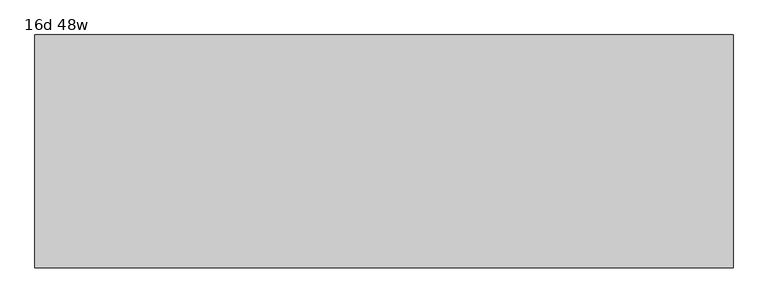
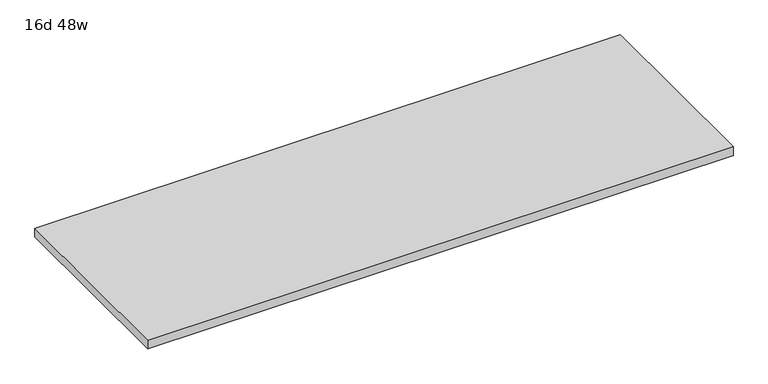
"""IFC4 building model written with IfcOpenShell, lengths in millimetres: furniture geometry, Haworth_BeHold_CommonTop : 16d 48w."""

import ifcopenshell
import ifcopenshell.guid

model = None  # the IFC model being written
_history = None  # IfcOwnerHistory: only IFC2X3 demands one
_inside = {}  # id of a spatial element -> (the spatial element, [elements in it])
_under = {}  # id of a project, library or spatial element -> (it, [spatial elements below it])
_declared = {}  # id of a project -> (the project, [libraries it declares])
_typed = {}  # id of a type object -> (the type object, [elements of that type])
_made_of = {}  # id of a material, layer set ... -> (it, [elements and type objects made of it])


def new_model(schema):
    """Start an empty IFC model of exactly this schema.

    Asked for "IFC4X3", IfcOpenShell would pick the latest addendum, in which some entities
    have other attributes; the version numbers below select the first issue.
    IFC2X3 requires an IfcOwnerHistory on every rooted entity: one is made here for all.
    """
    global model, _history
    if schema == "IFC4X3":
        model = ifcopenshell.file(schema_version=(4, 3, 0, 0))
    else:
        model = ifcopenshell.file(schema=schema)
    _inside.clear()
    _under.clear()
    _declared.clear()
    _typed.clear()
    _made_of.clear()
    _history = None
    if model.schema == "IFC2X3":
        org = make("IfcOrganization", Name="unknown")
        user = make(
            "IfcPersonAndOrganization",
            ThePerson=make("IfcPerson", FamilyName="unknown"),
            TheOrganization=org,
        )
        app = make(
            "IfcApplication",
            ApplicationDeveloper=org,
            Version="unknown",
            ApplicationFullName="unknown",
            ApplicationIdentifier="unknown",
        )
        _history = make(
            "IfcOwnerHistory",
            OwningUser=user,
            OwningApplication=app,
            ChangeAction="ADDED",
            CreationDate=0,
        )
    return model


def make(cls, **values):
    """One entity of the class cls with the attributes given. An attribute that is None is left unset."""
    return model.create_entity(
        cls, **{name: value for name, value in values.items() if value is not None}
    )


def rooted(cls, **values):
    """An entity with a GlobalId (a new one), such as an element, a storey or a relation."""
    return make(cls, GlobalId=ifcopenshell.guid.new(), OwnerHistory=_history, **values)


def si_unit(unit_type, name, prefix=None):
    """IfcSIUnit, for example si_unit("LENGTHUNIT", "METRE", prefix="MILLI")."""
    return make("IfcSIUnit", UnitType=unit_type, Prefix=prefix, Name=name)


def assignment(units):
    """IfcUnitAssignment: the units of a project."""
    return None if units is None else make("IfcUnitAssignment", Units=units)


def point(xyz):
    """IfcCartesianPoint."""
    return None if xyz is None else make("IfcCartesianPoint", Coordinates=xyz)


def direction(xyz):
    """IfcDirection."""
    return None if xyz is None else make("IfcDirection", DirectionRatios=xyz)


def frame(location, z_axis=None, x_axis=None):
    """IfcAxis2Placement3D, a coordinate frame: its origin and axes. An axis left out is left unset."""
    return make(
        "IfcAxis2Placement3D",
        Location=point(location),
        Axis=direction(z_axis),
        RefDirection=direction(x_axis),
    )


def origin():
    """The frame at (0, 0, 0) with its axes left unset."""
    return frame((0.0, 0.0, 0.0))


def place(relative_to, where):
    """IfcLocalPlacement: puts the frame where relative to a parent placement (None: the world)."""
    return make(
        "IfcLocalPlacement", PlacementRelTo=relative_to, RelativePlacement=where
    )


def context(
    kind, dimensions, precision=None, world=None, true_north=None, identifier=None
):
    """IfcGeometricRepresentationContext, for example the 3D "Model" context."""
    return make(
        "IfcGeometricRepresentationContext",
        ContextIdentifier=identifier,
        ContextType=kind,
        CoordinateSpaceDimension=dimensions,
        Precision=precision,
        WorldCoordinateSystem=world,
        TrueNorth=true_north,
    )


def project(units=None, contexts=None):
    """IfcProject with its units and contexts."""
    return rooted(
        "IfcProject",
        Name="project",
        RepresentationContexts=contexts,
        UnitsInContext=assignment(units),
    )


def spatial(cls, under=None, at=None, **own):
    """A site, building, storey or space (cls), placed at a placement, below another one or the project."""
    s = rooted(cls, ObjectPlacement=at, **own)
    if under is not None:
        _under.setdefault(under.id(), (under, []))[1].append(s)
    return s


def polyline(points):
    """IfcPolyline through the points."""
    return make("IfcPolyline", Points=[point(p) for p in points])


def outline(outer, holes=None, kind="AREA"):
    """IfcArbitraryClosedProfileDef: a profile drawn as a closed curve; with holes, ...WithVoids."""
    if holes is None:
        return make("IfcArbitraryClosedProfileDef", ProfileType=kind, OuterCurve=outer)
    return make(
        "IfcArbitraryProfileDefWithVoids",
        ProfileType=kind,
        OuterCurve=outer,
        InnerCurves=holes,
    )


def extrude(swept, where, along, depth):
    """IfcExtrudedAreaSolid: the profile swept, set in the frame where, extruded along a direction by depth."""
    return make(
        "IfcExtrudedAreaSolid",
        SweptArea=swept,
        Position=where,
        ExtrudedDirection=direction(along),
        Depth=depth,
    )


def shape(context_of_items, identifier, shape_type, items):
    """IfcShapeRepresentation: the items that make up one representation, for example the "Body"."""
    return make(
        "IfcShapeRepresentation",
        ContextOfItems=context_of_items,
        RepresentationIdentifier=identifier,
        RepresentationType=shape_type,
        Items=items,
    )


def source(mapping_origin, context_of_items, identifier, shape_type, items):
    """IfcRepresentationMap: a shape defined once, which mapped items show again and again."""
    return make(
        "IfcRepresentationMap",
        MappingOrigin=mapping_origin,
        MappedRepresentation=shape(context_of_items, identifier, shape_type, items),
    )


def transform(
    local_origin,
    x_axis=None,
    y_axis=None,
    z_axis=None,
    scale=None,
    scale2=None,
    scale3=None,
    uniform=True,
):
    """IfcCartesianTransformationOperator3D, or its non-uniform kind. x_axis, y_axis, z_axis: its Axis1, 2, 3."""
    if uniform:
        return make(
            "IfcCartesianTransformationOperator3D",
            Axis1=direction(x_axis),
            Axis2=direction(y_axis),
            LocalOrigin=point(local_origin),
            Scale=scale,
            Axis3=direction(z_axis),
        )
    return make(
        "IfcCartesianTransformationOperator3DnonUniform",
        Axis1=direction(x_axis),
        Axis2=direction(y_axis),
        LocalOrigin=point(local_origin),
        Scale=scale,
        Axis3=direction(z_axis),
        Scale2=scale2,
        Scale3=scale3,
    )


def mapped(mapping_source, mapping_target):
    """IfcMappedItem: shows the shape of a source again, moved by a transform."""
    return make(
        "IfcMappedItem", MappingSource=mapping_source, MappingTarget=mapping_target
    )


def made_of(thing, what):
    """Note that an element or type object is made of a material, layer set ...; save() writes the relation."""
    if what is not None:
        _made_of.setdefault(what.id(), (what, []))[1].append(thing)
    return thing


def element(
    cls,
    number,
    at=None,
    inside=None,
    cuts=None,
    type_object=None,
    material=None,
    context=None,
    identifier="Body",
    shape_type=None,
    held_by="IfcProductDefinitionShape",
    body=None,
    shapes=None,
    **own,
):
    """One element of the class cls, such as IfcWall. Its Tag is "e" and its number.

    at: its placement. inside: the storey or other place that contains it. cuts: it is an
    opening in that element (IfcRelVoidsElement). A single representation is given by context,
    identifier, shape_type and body (its items); several are given by shapes. held_by: the class
    of the entity that holds the representations. save() writes the other relations.
    """
    e = rooted(cls, Tag="e%d" % number, ObjectPlacement=at, **own)
    if body is not None:
        shapes = [shape(context, identifier, shape_type, body)]
    if shapes is not None:
        e.Representation = make(held_by, Representations=shapes)
    if inside is not None:
        _inside.setdefault(inside.id(), (inside, []))[1].append(e)
    if cuts is not None:
        rooted(
            "IfcRelVoidsElement", RelatingBuildingElement=cuts, RelatedOpeningElement=e
        )
    if type_object is not None:
        _typed.setdefault(type_object.id(), (type_object, []))[1].append(e)
    return made_of(e, material)


def aggregate(whole, parts):
    """IfcRelAggregates: a whole, such as a stair, and the parts it consists of."""
    return rooted("IfcRelAggregates", RelatingObject=whole, RelatedObjects=parts)


def save(model, path):
    """Write the relations noted so far, then the file.

    IfcRelAggregates (storeys below a building ...), IfcRelContainedInSpatialStructure (elements
    in a storey), IfcRelDefinesByType, IfcRelAssociatesMaterial and IfcRelDeclares: one each for
    every whole, place, type object, material and project.
    """
    for whole, parts in _under.values():
        aggregate(whole, parts)
    for where, things in _inside.values():
        rooted(
            "IfcRelContainedInSpatialStructure",
            RelatedElements=things,
            RelatingStructure=where,
        )
    for kind, things in _typed.values():
        rooted("IfcRelDefinesByType", RelatedObjects=things, RelatingType=kind)
    for what, things in _made_of.values():
        rooted("IfcRelAssociatesMaterial", RelatedObjects=things, RelatingMaterial=what)
    for by, libraries in _declared.values():
        rooted("IfcRelDeclares", RelatingContext=by, RelatedDefinitions=libraries)
    model.write(path)


def furniture_16d_48w_6f4809b6(model_context):
    return source(origin(), model_context, "Body", "SweptSolid", [
        extrude(outline(polyline([(452.7408447, 88.9), (-766.4591553, 88.9), (-766.4591553, 495.3), (452.7408447, 495.3), (452.7408447, 88.9)])), frame((0.0, 0.0, 539.75), z_axis=(0.0, 0.0, 1.0), x_axis=(1.0, 0.0, 0.0)), (0.0, 0.0, 1.0), 19.05),
    ])


if __name__ == "__main__":
    model = new_model("IFC4")
    model_context = context("Model", 3, world=origin())
    ifc_project = project(units=[si_unit("LENGTHUNIT", "METRE", prefix="MILLI")], contexts=[model_context])
    site = spatial("IfcSite", under=ifc_project)
    building = spatial("IfcBuilding", under=site)
    placement = place(None, origin())
    furniture_16d_48w_shape = furniture_16d_48w_6f4809b6(model_context)
    element("IfcFurniture", 1, ObjectType="Haworth_BeHold_CommonTop : 16d 48w", at=placement, inside=building, context=model_context, shape_type="MappedRepresentation", body=[
        mapped(furniture_16d_48w_shape, transform((0.0, 0.0, 0.0), x_axis=(1.0, 0.0, 0.0), y_axis=(0.0, 1.0, 0.0), z_axis=(0.0, 0.0, 1.0))),
    ])
    save(model, "model.ifc")
